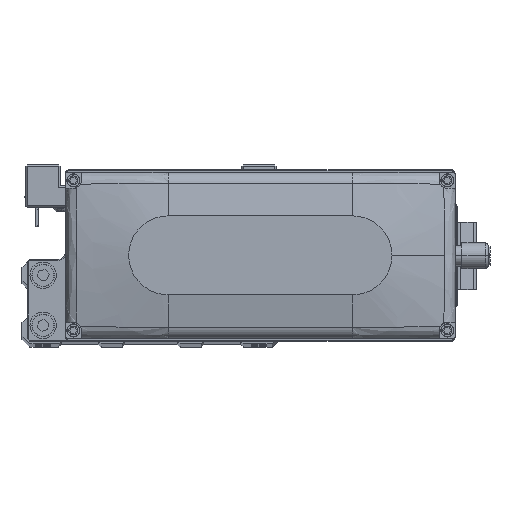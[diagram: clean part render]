
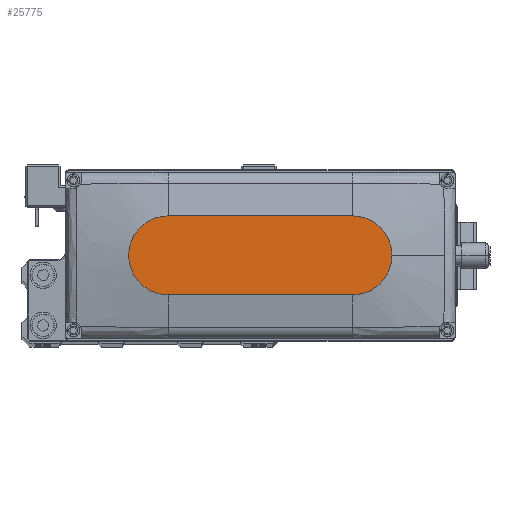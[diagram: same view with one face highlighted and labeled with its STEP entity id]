
A CAD part, top view. The second image highlights one B-rep face of the part: STEP entity #25775.
In plain terms, the highlighted planar face has unit normal (0, 0, 1).
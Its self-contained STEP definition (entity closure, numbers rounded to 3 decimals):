
#185 = ORIENTED_EDGE ( 'NONE', *, *, #33006, .T. ) ;
#859 = DIRECTION ( 'NONE',  ( 1., 0., 0. ) ) ;
#1241 = CARTESIAN_POINT ( 'NONE',  ( 35., 0., 35. ) ) ;
#1812 = ORIENTED_EDGE ( 'NONE', *, *, #2374, .T. ) ;
#1840 = VECTOR ( 'NONE', #4279, 1000. ) ;
#2193 = CARTESIAN_POINT ( 'NONE',  ( -35., 15., 35. ) ) ;
#2374 = EDGE_CURVE ( 'NONE', #37996, #21871, #41432, .T. ) ;
#2930 = DIRECTION ( 'NONE',  ( 0., 0., 1. ) ) ;
#3109 = AXIS2_PLACEMENT_3D ( 'NONE', #8709, #21684, #34676 ) ;
#4064 = PLANE ( 'NONE',  #9708 ) ;
#4279 = DIRECTION ( 'NONE',  ( 1., 0., 0. ) ) ;
#8709 = CARTESIAN_POINT ( 'NONE',  ( 35., 0., 35. ) ) ;
#9708 = AXIS2_PLACEMENT_3D ( 'NONE', #17082, #30041, #859 ) ;
#9879 = CARTESIAN_POINT ( 'NONE',  ( -35., -15., 35. ) ) ;
#12244 = CARTESIAN_POINT ( 'NONE',  ( -35., 15., 35. ) ) ;
#13163 = AXIS2_PLACEMENT_3D ( 'NONE', #1241, #14256, #27200 ) ;
#13443 = VERTEX_POINT ( 'NONE', #9879 ) ;
#14256 = DIRECTION ( 'NONE',  ( 0., 0., 1. ) ) ;
#15947 = DIRECTION ( 'NONE',  ( 1., 0., 0. ) ) ;
#17082 = CARTESIAN_POINT ( 'NONE',  ( 0., 0., 35. ) ) ;
#19975 = AXIS2_PLACEMENT_3D ( 'NONE', #32101, #2930, #15947 ) ;
#20468 = LINE ( 'NONE', #33450, #1840 ) ;
#20998 = VERTEX_POINT ( 'NONE', #31061 ) ;
#21188 = EDGE_CURVE ( 'NONE', #21871, #13443, #38365, .T. ) ;
#21477 = CIRCLE ( 'NONE', #3109, 15. ) ;
#21684 = DIRECTION ( 'NONE',  ( 0., 0., 1. ) ) ;
#21871 = VERTEX_POINT ( 'NONE', #2193 ) ;
#25218 = DIRECTION ( 'NONE',  ( -1., 0., 0. ) ) ;
#25589 = ORIENTED_EDGE ( 'NONE', *, *, #26232, .T. ) ;
#25775 = ADVANCED_FACE ( 'NONE', ( #33248 ), #4064, .T. ) ;
#26232 = EDGE_CURVE ( 'NONE', #29563, #20998, #31498, .T. ) ;
#27200 = DIRECTION ( 'NONE',  ( 1., 0., 0. ) ) ;
#29563 = VERTEX_POINT ( 'NONE', #31554 ) ;
#29792 = EDGE_LOOP ( 'NONE', ( #1812, #35508, #30277, #25589, #185 ) ) ;
#30041 = DIRECTION ( 'NONE',  ( 0., 0., 1. ) ) ;
#30277 = ORIENTED_EDGE ( 'NONE', *, *, #40181, .T. ) ;
#31061 = CARTESIAN_POINT ( 'NONE',  ( 50., 0., 35. ) ) ;
#31498 = CIRCLE ( 'NONE', #13163, 15. ) ;
#31554 = CARTESIAN_POINT ( 'NONE',  ( 35., -15., 35. ) ) ;
#32101 = CARTESIAN_POINT ( 'NONE',  ( -35., 0., 35. ) ) ;
#33006 = EDGE_CURVE ( 'NONE', #20998, #37996, #21477, .T. ) ;
#33248 = FACE_OUTER_BOUND ( 'NONE', #29792, .T. ) ;
#33450 = CARTESIAN_POINT ( 'NONE',  ( -35., -15., 35. ) ) ;
#34676 = DIRECTION ( 'NONE',  ( 1., 0., 0. ) ) ;
#34934 = VECTOR ( 'NONE', #25218, 1000. ) ;
#35508 = ORIENTED_EDGE ( 'NONE', *, *, #21188, .T. ) ;
#37996 = VERTEX_POINT ( 'NONE', #39342 ) ;
#38365 = CIRCLE ( 'NONE', #19975, 15. ) ;
#39342 = CARTESIAN_POINT ( 'NONE',  ( 35., 15., 35. ) ) ;
#40181 = EDGE_CURVE ( 'NONE', #13443, #29563, #20468, .T. ) ;
#41432 = LINE ( 'NONE', #12244, #34934 ) ;
